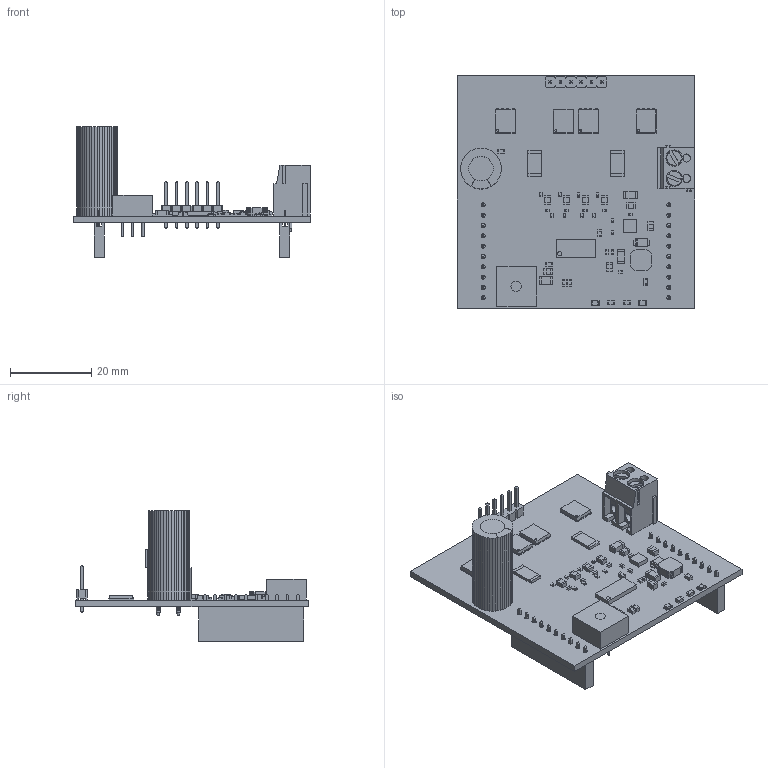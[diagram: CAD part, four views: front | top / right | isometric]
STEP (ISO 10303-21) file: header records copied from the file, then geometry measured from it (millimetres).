
FILE_DESCRIPTION(('Open CASCADE Model'),'2;1');
FILE_NAME('Open CASCADE Shape Model','2015-11-23T10:09:42',('Author'),( 'Open CASCADE'),'Open CASCADE STEP processor 6.8','Open CASCADE 6.8' ,'Unknown');
FILE_SCHEMA(('AUTOMOTIVE_DESIGN { 1 0 10303 214 1 1 1 1 }'));
Length unit declared in the file: millimetre
Products named in the file (154): PCB; Board; R6; 426831120; Extruded; 426831376; R1; 426835472; 1227398784; Cylinder; 426835728; R11; 426831504; 426831760; R14; R13; R12; R9; 426831888; 426832016; R8; R7; Q12; 426835216; 426832144; Q11; Q6; Q8; Q7; Q10; TI_DQJ8A; Q5; L1; 1331451968; D7; WL-SMCW_0805; WL-SMCW_0805_4; WL-SMCW_0805_2; WL-SMCW_0805_3; WL-SMCW_0805_5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
Assembly tree (260 placements, depth 4):
  PCB
    Board
    R6
      426831120  x2
        Extruded
      426831376
        Extruded
    R1
      426835472
        Extruded
      1227398784  x3
        Cylinder
      426835728
        Extruded
    R11
      426831504  x2
        Extruded
      426831760
        Extruded
    R14
      426831120  x2
        Extruded
      426831376
        Extruded
    R13
      426831120  x2
        Extruded
      426831376
        Extruded
    R12
      426831504  x2
        Extruded
      426831760
        Extruded
    R9
      426831888  x2
        Extruded
      426832016
        Extruded
    R8
      426831120  x2
        Extruded
      426831376
        Extruded
    R7
      426831120  x2
        Extruded
      426831376
        Extruded
    Q12
      426835216
        Extruded
      426832144
        Extruded
    Q11
      426835216
        Extruded
      426832144
        Extruded
    Q6
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Bounding box: 58.42 x 57.15 x 32.17 mm (x, y, z)
Volume: 9990.4 mm3; surface area: 15549.5 mm2
Topology: 179 solids, 179 shells, 2610 faces, 6432 edges, 4168 vertices
Faces by surface type: plane 2336, cylinder 198, bspline 40, sphere 24, cone 6, torus 6
Full cylindrical faces by diameter (mm): 0.469 x4, 0.559 x3, 0.787 x3, 0.9 x2, 0.95 x2, 1.02 x20, 1.15 x6, 1.3 x2, 2.2 x2, 2.459 x2, 3 x6, 3.1 x2, 3.9 x2, 4 x2
Entity records: 83338 total; most frequent: CARTESIAN_POINT 20564, DIRECTION 10564, LINE 7387, VECTOR 7387, ORIENTED_EDGE 5442, PCURVE 5442, DEFINITIONAL_REPRESENTATION 5442, EDGE_CURVE 2721
